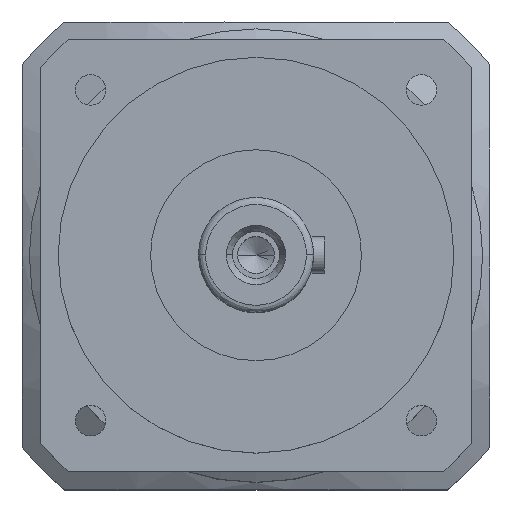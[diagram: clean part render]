
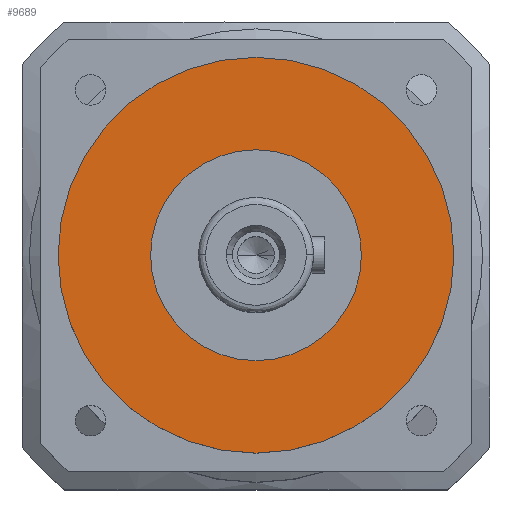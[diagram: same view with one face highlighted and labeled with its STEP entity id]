
A CAD part, top view. The second image highlights one B-rep face of the part: STEP entity #9689.
In plain terms, the highlighted planar face has unit normal (0, 0, 1).
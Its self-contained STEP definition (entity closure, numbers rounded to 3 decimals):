
#236 = ORIENTED_EDGE ( 'NONE', *, *, #8488, .F. ) ;
#1063 = AXIS2_PLACEMENT_3D ( 'NONE', #1235, #4819, #26934 ) ;
#1235 = CARTESIAN_POINT ( 'NONE',  ( 0., 0., 0. ) ) ;
#2675 = AXIS2_PLACEMENT_3D ( 'NONE', #16252, #38287, #19417 ) ;
#3048 = ORIENTED_EDGE ( 'NONE', *, *, #19461, .F. ) ;
#3313 = AXIS2_PLACEMENT_3D ( 'NONE', #29739, #10909, #32878 ) ;
#3615 = EDGE_LOOP ( 'NONE', ( #9097, #18317 ) ) ;
#4220 = AXIS2_PLACEMENT_3D ( 'NONE', #24873, #5946, #28019 ) ;
#4819 = DIRECTION ( 'NONE',  ( 0., 0., -1. ) ) ;
#5946 = DIRECTION ( 'NONE',  ( 0., 0., 1. ) ) ;
#5954 = CARTESIAN_POINT ( 'NONE',  ( -29.3, 0., 0. ) ) ;
#8488 = EDGE_CURVE ( 'NONE', #20254, #11925, #37419, .T. ) ;
#9097 = ORIENTED_EDGE ( 'NONE', *, *, #28770, .F. ) ;
#9689 = ADVANCED_FACE ( 'NONE', ( #32921, #25581 ), #20541, .F. ) ;
#10909 = DIRECTION ( 'NONE',  ( 0., 0., 1. ) ) ;
#11925 = VERTEX_POINT ( 'NONE', #5954 ) ;
#12628 = EDGE_CURVE ( 'NONE', #38121, #27333, #25614, .T. ) ;
#15658 = CARTESIAN_POINT ( 'NONE',  ( -55., 0., 0. ) ) ;
#16252 = CARTESIAN_POINT ( 'NONE',  ( 0., 0., 0. ) ) ;
#18317 = ORIENTED_EDGE ( 'NONE', *, *, #12628, .F. ) ;
#18780 = DIRECTION ( 'NONE',  ( 0., 0., -1. ) ) ;
#19417 = DIRECTION ( 'NONE',  ( 1., 0., 0. ) ) ;
#19461 = EDGE_CURVE ( 'NONE', #11925, #20254, #36582, .T. ) ;
#20254 = VERTEX_POINT ( 'NONE', #28721 ) ;
#20541 = PLANE ( 'NONE',  #1063 ) ;
#23072 = AXIS2_PLACEMENT_3D ( 'NONE', #37660, #18780, #40825 ) ;
#24873 = CARTESIAN_POINT ( 'NONE',  ( 0., 0., 0. ) ) ;
#25581 = FACE_OUTER_BOUND ( 'NONE', #3615, .T. ) ;
#25614 = CIRCLE ( 'NONE', #2675, 55. ) ;
#26934 = DIRECTION ( 'NONE',  ( -1., 0., 0. ) ) ;
#27160 = EDGE_LOOP ( 'NONE', ( #3048, #236 ) ) ;
#27333 = VERTEX_POINT ( 'NONE', #35744 ) ;
#28019 = DIRECTION ( 'NONE',  ( -1., 0., 0. ) ) ;
#28721 = CARTESIAN_POINT ( 'NONE',  ( 29.3, 0., 0. ) ) ;
#28770 = EDGE_CURVE ( 'NONE', #27333, #38121, #32343, .T. ) ;
#29739 = CARTESIAN_POINT ( 'NONE',  ( 0., 0., 0. ) ) ;
#32343 = CIRCLE ( 'NONE', #23072, 55. ) ;
#32878 = DIRECTION ( 'NONE',  ( -1., 0., 0. ) ) ;
#32921 = FACE_BOUND ( 'NONE', #27160, .T. ) ;
#35744 = CARTESIAN_POINT ( 'NONE',  ( 55., 0., 0. ) ) ;
#36582 = CIRCLE ( 'NONE', #3313, 29.3 ) ;
#37419 = CIRCLE ( 'NONE', #4220, 29.3 ) ;
#37660 = CARTESIAN_POINT ( 'NONE',  ( 0., 0., 0. ) ) ;
#38121 = VERTEX_POINT ( 'NONE', #15658 ) ;
#38287 = DIRECTION ( 'NONE',  ( 0., 0., -1. ) ) ;
#40825 = DIRECTION ( 'NONE',  ( 1., 0., 0. ) ) ;
